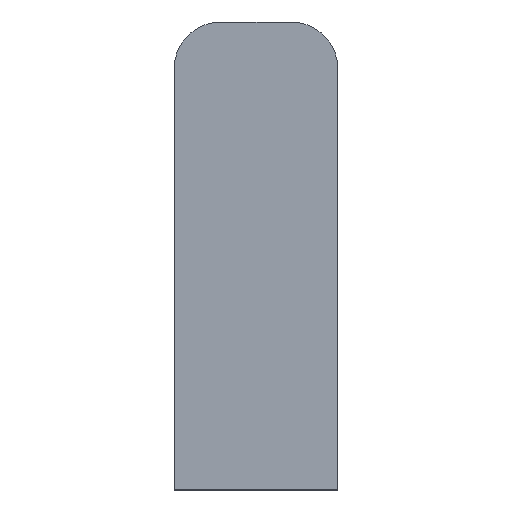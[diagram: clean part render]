
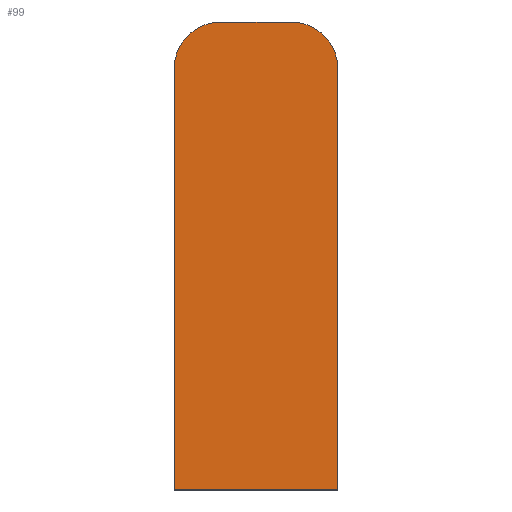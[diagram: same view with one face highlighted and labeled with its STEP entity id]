
A CAD part, front view. The second image highlights one B-rep face of the part: STEP entity #99.
In plain terms, the highlighted planar face has unit normal (0, -1, 0).
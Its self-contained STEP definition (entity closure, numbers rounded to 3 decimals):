
#10 = LINE ( 'NONE', #312, #79 ) ;
#30 = VECTOR ( 'NONE', #377, 1000. ) ;
#32 = LINE ( 'NONE', #368, #30 ) ;
#49 = CIRCLE ( 'NONE', #721, 3. ) ;
#62 = CIRCLE ( 'NONE', #718, 3. ) ;
#64 = VECTOR ( 'NONE', #332, 1000. ) ;
#65 = LINE ( 'NONE', #331, #64 ) ;
#67 = LINE ( 'NONE', #338, #68 ) ;
#68 = VECTOR ( 'NONE', #339, 1000. ) ;
#79 = VECTOR ( 'NONE', #315, 1000. ) ;
#99 = ADVANCED_FACE ( 'NONE', ( #615 ), #176, .F. ) ;
#120 = VERTEX_POINT ( 'NONE', #237 ) ;
#126 = VERTEX_POINT ( 'NONE', #242 ) ;
#132 = VERTEX_POINT ( 'NONE', #248 ) ;
#137 = VERTEX_POINT ( 'NONE', #253 ) ;
#146 = VERTEX_POINT ( 'NONE', #262 ) ;
#147 = VERTEX_POINT ( 'NONE', #263 ) ;
#176 = PLANE ( 'NONE',  #695 ) ;
#187 = CARTESIAN_POINT ( 'NONE',  ( 0., 0., -1.5 ) ) ;
#193 = DIRECTION ( 'NONE',  ( 0., 1., 0. ) ) ;
#194 = DIRECTION ( 'NONE',  ( -1., 0., 0. ) ) ;
#237 = CARTESIAN_POINT ( 'NONE',  ( -5.25, 0., -16.5 ) ) ;
#242 = CARTESIAN_POINT ( 'NONE',  ( 5.25, 0., -16.5 ) ) ;
#248 = CARTESIAN_POINT ( 'NONE',  ( -2.25, 0., 13.5 ) ) ;
#253 = CARTESIAN_POINT ( 'NONE',  ( 2.25, 0., 13.5 ) ) ;
#262 = CARTESIAN_POINT ( 'NONE',  ( -5.25, 0., 10.5 ) ) ;
#263 = CARTESIAN_POINT ( 'NONE',  ( 5.25, 0., 10.5 ) ) ;
#312 = CARTESIAN_POINT ( 'NONE',  ( 5.25, 0., -16.5 ) ) ;
#315 = DIRECTION ( 'NONE',  ( 0., 0., 1. ) ) ;
#331 = CARTESIAN_POINT ( 'NONE',  ( -5.25, 0., -16.5 ) ) ;
#332 = DIRECTION ( 'NONE',  ( 0., 0., -1. ) ) ;
#335 = CARTESIAN_POINT ( 'NONE',  ( 2.25, 0., 10.5 ) ) ;
#336 = DIRECTION ( 'NONE',  ( 0., -1., 0. ) ) ;
#337 = DIRECTION ( 'NONE',  ( -1., 0., 0. ) ) ;
#338 = CARTESIAN_POINT ( 'NONE',  ( 2.25, 0., 13.5 ) ) ;
#339 = DIRECTION ( 'NONE',  ( -1., 0., 0. ) ) ;
#344 = CARTESIAN_POINT ( 'NONE',  ( -2.25, 0., 10.5 ) ) ;
#350 = DIRECTION ( 'NONE',  ( 0., -1., 0. ) ) ;
#351 = DIRECTION ( 'NONE',  ( -1., 0., 0. ) ) ;
#368 = CARTESIAN_POINT ( 'NONE',  ( 5.25, 0., -16.5 ) ) ;
#377 = DIRECTION ( 'NONE',  ( 1., 0., 0. ) ) ;
#442 = ORIENTED_EDGE ( 'NONE', *, *, #659, .T. ) ;
#445 = ORIENTED_EDGE ( 'NONE', *, *, #644, .T. ) ;
#446 = ORIENTED_EDGE ( 'NONE', *, *, #652, .T. ) ;
#481 = ORIENTED_EDGE ( 'NONE', *, *, #655, .T. ) ;
#494 = ORIENTED_EDGE ( 'NONE', *, *, #654, .T. ) ;
#517 = ORIENTED_EDGE ( 'NONE', *, *, #671, .T. ) ;
#586 = EDGE_LOOP ( 'NONE', ( #445, #494, #481, #442, #446, #517 ) ) ;
#615 = FACE_OUTER_BOUND ( 'NONE', #586, .T. ) ;
#644 = EDGE_CURVE ( 'NONE', #126, #147, #10, .T. ) ;
#652 = EDGE_CURVE ( 'NONE', #146, #120, #65, .T. ) ;
#654 = EDGE_CURVE ( 'NONE', #147, #137, #62, .T. ) ;
#655 = EDGE_CURVE ( 'NONE', #137, #132, #67, .T. ) ;
#659 = EDGE_CURVE ( 'NONE', #132, #146, #49, .T. ) ;
#671 = EDGE_CURVE ( 'NONE', #120, #126, #32, .T. ) ;
#695 = AXIS2_PLACEMENT_3D ( 'NONE', #187, #193, #194 ) ;
#718 = AXIS2_PLACEMENT_3D ( 'NONE', #335, #336, #337 ) ;
#721 = AXIS2_PLACEMENT_3D ( 'NONE', #344, #350, #351 ) ;
